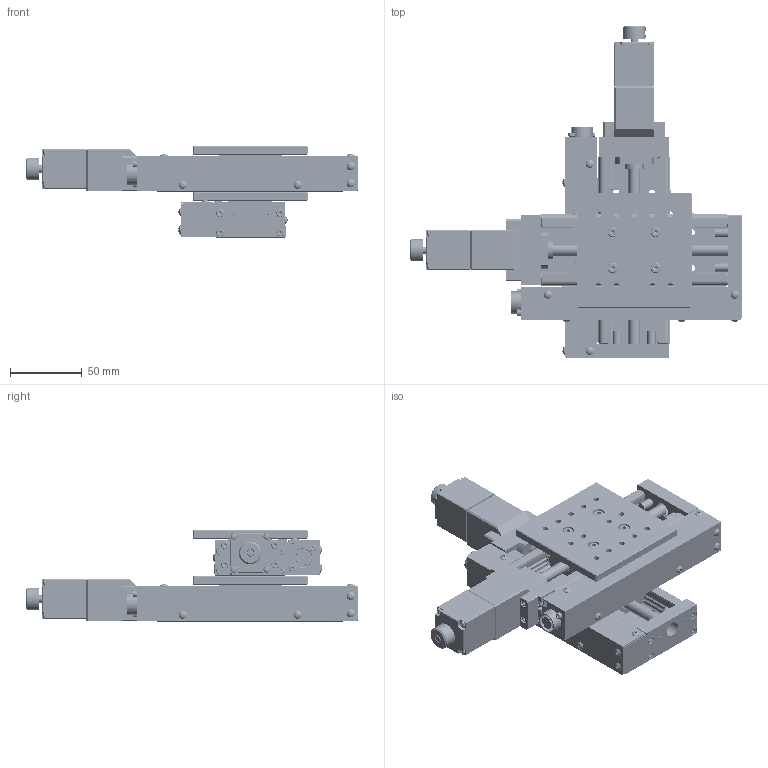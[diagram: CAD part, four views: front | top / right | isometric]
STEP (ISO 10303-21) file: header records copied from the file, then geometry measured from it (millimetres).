
FILE_DESCRIPTION( (''), '2;1');
FILE_NAME ('PM80B-50XY-HQ.stp','2021-02-26T13:47:24',(''),(''),'spGate 15.6.6','','');
FILE_SCHEMA (('AUTOMOTIVE_DESIGN'));
Length unit declared in the file: millimetre
Products named in the file (129): Assembly; PM80B-50XY-HQ-prt0; PM80B-50XY-HQ-prt1; PM80B-50XY-HQ-prt2; PM80B-50XY-HQ-prt3; PM80B-50XY-HQ-prt4; PM80B-50XY-HQ-prt5; PM80B-50XY-HQ-prt6; PM80B-50XY-HQ-prt7; PM80B-50XY-HQ-prt8; PM80B-50XY-HQ-prt9; PM80B-50XY-HQ-prt10; PM80B-50XY-HQ-prt11; PM80B-50XY-HQ-prt12; PM80B-50XY-HQ-prt13; PM80B-50XY-HQ-prt14; PM80B-50XY-HQ-prt15; PM80B-50XY-HQ-prt16; PM80B-50XY-HQ-prt17; PM80B-50XY-HQ-prt18; PM80B-50XY-HQ-prt19; PM80B-50XY-HQ-prt20; PM80B-50XY-HQ-prt21; PM80B-50XY-HQ-prt22; PM80B-50XY-HQ-prt23; PM80B-50XY-HQ-prt24; PM80B-50XY-HQ-prt25; PM80B-50XY-HQ-prt26; PM80B-50XY-HQ-prt27; PM80B-50XY-HQ-prt28; PM80B-50XY-HQ-prt29; PM80B-50XY-HQ-prt30; PM80B-50XY-HQ-prt31; PM80B-50XY-HQ-prt32; PM80B-50XY-HQ-prt33; PM80B-50XY-HQ-prt34; PM80B-50XY-HQ-prt35; PM80B-50XY-HQ-prt36; PM80B-50XY-HQ-prt37; PM80B-50XY-HQ-prt38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
Assembly tree (128 placements, depth 2):
  Assembly
    PM80B-50XY-HQ-prt0
    PM80B-50XY-HQ-prt1
    PM80B-50XY-HQ-prt2
    PM80B-50XY-HQ-prt3
    PM80B-50XY-HQ-prt4
    PM80B-50XY-HQ-prt5
    PM80B-50XY-HQ-prt6
    PM80B-50XY-HQ-prt7
    PM80B-50XY-HQ-prt8
    PM80B-50XY-HQ-prt9
    PM80B-50XY-HQ-prt10
    PM80B-50XY-HQ-prt11
    PM80B-50XY-HQ-prt12
    PM80B-50XY-HQ-prt13
    PM80B-50XY-HQ-prt14
    PM80B-50XY-HQ-prt15
    PM80B-50XY-HQ-prt16
    PM80B-50XY-HQ-prt17
    PM80B-50XY-HQ-prt18
    PM80B-50XY-HQ-prt19
    PM80B-50XY-HQ-prt20
    PM80B-50XY-HQ-prt21
    PM80B-50XY-HQ-prt22
    PM80B-50XY-HQ-prt23
    PM80B-50XY-HQ-prt24
    PM80B-50XY-HQ-prt25
    PM80B-50XY-HQ-prt26
    PM80B-50XY-HQ-prt27
    PM80B-50XY-HQ-prt28
    PM80B-50XY-HQ-prt29
    PM80B-50XY-HQ-prt30
    PM80B-50XY-HQ-prt31
    PM80B-50XY-HQ-prt32
    PM80B-50XY-HQ-prt33
    PM80B-50XY-HQ-prt34
    PM80B-50XY-HQ-prt35
    PM80B-50XY-HQ-prt36
    PM80B-50XY-HQ-prt37
    PM80B-50XY-HQ-prt38
    PM80B-50XY-HQ-prt39
    PM80B-50XY-HQ-prt40
    PM80B-50XY-HQ-prt41
    PM80B-50XY-HQ-prt42
    PM80B-50XY-HQ-prt43
    PM80B-50XY-HQ-prt44
    PM80B-50XY-HQ-prt45
    PM80B-50XY-HQ-prt46
    PM80B-50XY-HQ-prt47
    PM80B-50XY-HQ-prt48
    PM80B-50XY-HQ-prt49
    PM80B-50XY-HQ-prt50
    PM80B-50XY-HQ-prt51
    PM80B-50XY-HQ-prt52
    PM80B-50XY-HQ-prt53
    PM80B-50XY-HQ-prt54
    PM80B-50XY-HQ-prt55
    PM80B-50XY-HQ-prt56
    PM80B-50XY-HQ-prt57
    PM80B-50XY-HQ-prt58
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Bounding box: 231 x 231 x 64 mm (x, y, z)
Volume: 487347 mm3; surface area: 281930 mm2
Topology: 128 solids, 128 shells, 5206 faces, 12383 edges, 7570 vertices
Faces by surface type: plane 2660, cylinder 1628, bspline 866, sphere 52
Entity records: 264898 total; most frequent: CARTESIAN_POINT 40714, DIRECTION 25668, ORIENTED_EDGE 24116, COLOUR_RGB 17386, PRESENTATION_STYLE_ASSIGNMENT 17386, STYLED_ITEM 17386, EDGE_CURVE 12058, DRAUGHTING_PRE_DEFINED_CURVE_FONT 12058
